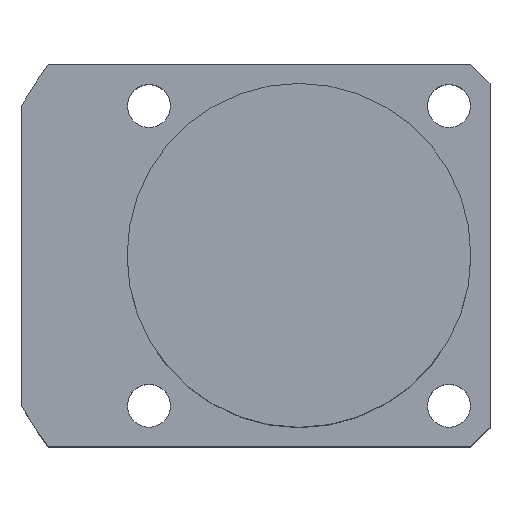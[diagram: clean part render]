
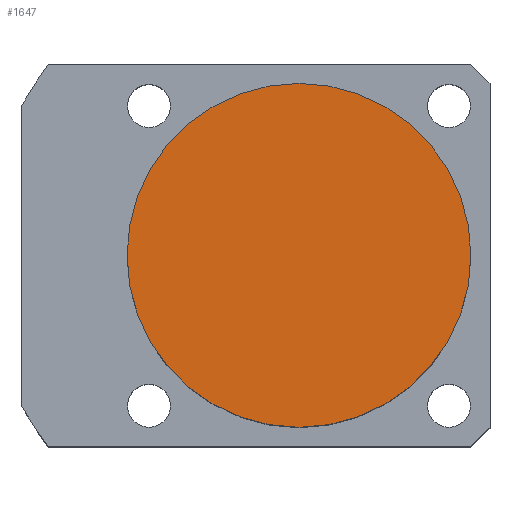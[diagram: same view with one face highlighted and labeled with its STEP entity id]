
A CAD part, top view. The second image highlights one B-rep face of the part: STEP entity #1647.
In plain terms, the highlighted planar face has unit normal (0, 0, 1).
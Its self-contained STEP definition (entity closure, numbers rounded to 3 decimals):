
#1589=CARTESIAN_POINT('',(-0.0,18.0,38.5));
#1590=VERTEX_POINT('',#1589);
#1597=CARTESIAN_POINT('',(18.0,0.0,38.5));
#1598=VERTEX_POINT('',#1597);
#1599=CARTESIAN_POINT('',(0.0,0.0,38.5));
#1600=DIRECTION('',(0.0,0.0,1.0));
#1601=DIRECTION('',(1.0,0.0,0.0));
#1602=AXIS2_PLACEMENT_3D('',#1599,#1600,#1601);
#1603=CIRCLE('',#1602,18.0);
#1604=EDGE_CURVE('no 2063',#1598,#1590,#1603,.T.);
#1606=CARTESIAN_POINT('',(-0.0,-18.0,38.5));
#1607=VERTEX_POINT('',#1606);
#1608=CARTESIAN_POINT('',(0.0,0.0,38.5));
#1609=DIRECTION('',(0.0,0.0,1.0));
#1610=DIRECTION('',(1.0,0.0,0.0));
#1611=AXIS2_PLACEMENT_3D('',#1608,#1609,#1610);
#1612=CIRCLE('',#1611,18.0);
#1613=EDGE_CURVE('no 2069',#1607,#1598,#1612,.T.);
#1631=ORIENTED_EDGE('',*,*,#1604,.T.);
#1632=CARTESIAN_POINT('',(0.0,0.0,38.5));
#1633=DIRECTION('',(0.0,0.0,1.0));
#1634=DIRECTION('',(1.0,0.0,0.0));
#1635=AXIS2_PLACEMENT_3D('',#1632,#1633,#1634);
#1636=CIRCLE('',#1635,18.0);
#1637=EDGE_CURVE('no 2086',#1590,#1607,#1636,.T.);
#1638=ORIENTED_EDGE('',*,*,#1637,.T.);
#1639=ORIENTED_EDGE('',*,*,#1613,.T.);
#1640=EDGE_LOOP('',(#1631,#1638,#1639));
#1641=FACE_OUTER_BOUND('',#1640,.T.);
#1642=CARTESIAN_POINT('',(0.0,0.0,38.5));
#1643=DIRECTION('',(0.0,0.0,1.0));
#1644=DIRECTION('',(1.0,0.0,0.0));
#1645=AXIS2_PLACEMENT_3D('',#1642,#1643,#1644);
#1646=PLANE('',#1645);
#1647=ADVANCED_FACE('no 2079',(#1641),#1646,.T.);
